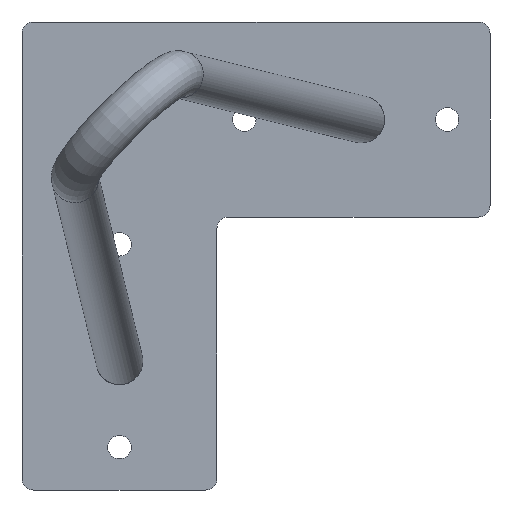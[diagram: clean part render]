
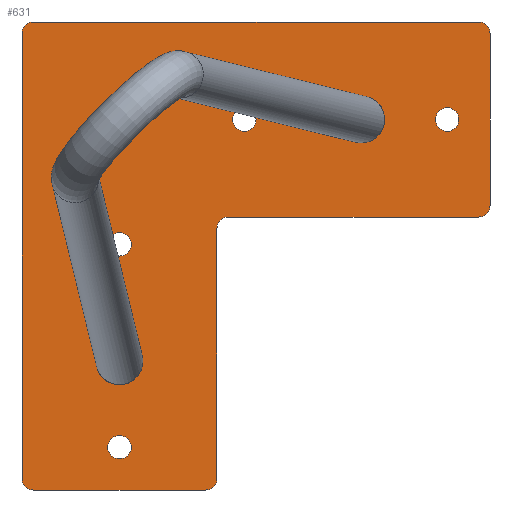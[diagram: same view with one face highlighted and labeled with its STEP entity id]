
A CAD part, front view. The second image highlights one B-rep face of the part: STEP entity #631.
In plain terms, the highlighted planar face has unit normal (0, -1, 0).
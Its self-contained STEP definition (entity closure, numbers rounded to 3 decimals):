
#32=FACE_BOUND('',#103,.T.);
#33=FACE_BOUND('',#104,.T.);
#34=FACE_BOUND('',#105,.T.);
#35=FACE_BOUND('',#106,.T.);
#36=FACE_BOUND('',#107,.T.);
#37=FACE_BOUND('',#108,.T.);
#38=FACE_BOUND('',#109,.T.);
#47=PLANE('',#703);
#66=FACE_OUTER_BOUND('',#102,.T.);
#102=EDGE_LOOP('',(#449,#450,#451,#452,#453,#454,#455,#456,#457,#458,#459,
#460));
#103=EDGE_LOOP('',(#461,#462));
#104=EDGE_LOOP('',(#463,#464));
#105=EDGE_LOOP('',(#465,#466));
#106=EDGE_LOOP('',(#467));
#107=EDGE_LOOP('',(#468));
#108=EDGE_LOOP('',(#469));
#109=EDGE_LOOP('',(#470));
#146=LINE('',#1031,#182);
#149=LINE('',#1037,#185);
#150=LINE('',#1041,#186);
#151=LINE('',#1045,#187);
#152=LINE('',#1049,#188);
#153=LINE('',#1053,#189);
#182=VECTOR('',#821,10.);
#185=VECTOR('',#826,10.);
#186=VECTOR('',#829,10.);
#187=VECTOR('',#832,10.);
#188=VECTOR('',#835,10.);
#189=VECTOR('',#838,10.);
#213=CIRCLE('',#682,6.);
#214=CIRCLE('',#683,6.);
#217=CIRCLE('',#688,6.);
#218=CIRCLE('',#689,6.);
#221=CIRCLE('',#694,6.);
#222=CIRCLE('',#695,6.);
#226=CIRCLE('',#701,3.);
#227=CIRCLE('',#704,3.);
#228=CIRCLE('',#705,3.);
#229=CIRCLE('',#706,3.);
#230=CIRCLE('',#707,3.);
#231=CIRCLE('',#708,3.);
#232=CIRCLE('',#709,3.);
#233=CIRCLE('',#710,3.);
#234=CIRCLE('',#711,3.);
#235=CIRCLE('',#712,3.);
#258=VERTEX_POINT('',#988);
#259=VERTEX_POINT('',#989);
#262=VERTEX_POINT('',#999);
#263=VERTEX_POINT('',#1000);
#266=VERTEX_POINT('',#1010);
#267=VERTEX_POINT('',#1011);
#272=VERTEX_POINT('',#1024);
#273=VERTEX_POINT('',#1026);
#274=VERTEX_POINT('',#1030);
#276=VERTEX_POINT('',#1036);
#277=VERTEX_POINT('',#1038);
#278=VERTEX_POINT('',#1040);
#279=VERTEX_POINT('',#1042);
#280=VERTEX_POINT('',#1044);
#281=VERTEX_POINT('',#1046);
#282=VERTEX_POINT('',#1048);
#283=VERTEX_POINT('',#1050);
#284=VERTEX_POINT('',#1052);
#285=VERTEX_POINT('',#1055);
#286=VERTEX_POINT('',#1057);
#287=VERTEX_POINT('',#1059);
#288=VERTEX_POINT('',#1061);
#324=EDGE_CURVE('',#258,#259,#213,.T.);
#325=EDGE_CURVE('',#259,#258,#214,.T.);
#329=EDGE_CURVE('',#262,#263,#217,.T.);
#330=EDGE_CURVE('',#263,#262,#218,.T.);
#334=EDGE_CURVE('',#266,#267,#221,.T.);
#335=EDGE_CURVE('',#267,#266,#222,.T.);
#341=EDGE_CURVE('',#272,#273,#226,.T.);
#343=EDGE_CURVE('',#273,#274,#146,.T.);
#346=EDGE_CURVE('',#276,#272,#149,.T.);
#347=EDGE_CURVE('',#277,#276,#227,.T.);
#348=EDGE_CURVE('',#278,#277,#150,.T.);
#349=EDGE_CURVE('',#279,#278,#228,.T.);
#350=EDGE_CURVE('',#280,#279,#151,.T.);
#351=EDGE_CURVE('',#281,#280,#229,.T.);
#352=EDGE_CURVE('',#282,#281,#152,.T.);
#353=EDGE_CURVE('',#283,#282,#230,.T.);
#354=EDGE_CURVE('',#284,#283,#153,.T.);
#355=EDGE_CURVE('',#274,#284,#231,.T.);
#356=EDGE_CURVE('',#285,#285,#232,.T.);
#357=EDGE_CURVE('',#286,#286,#233,.T.);
#358=EDGE_CURVE('',#287,#287,#234,.T.);
#359=EDGE_CURVE('',#288,#288,#235,.T.);
#449=ORIENTED_EDGE('',*,*,#341,.F.);
#450=ORIENTED_EDGE('',*,*,#346,.F.);
#451=ORIENTED_EDGE('',*,*,#347,.F.);
#452=ORIENTED_EDGE('',*,*,#348,.F.);
#453=ORIENTED_EDGE('',*,*,#349,.F.);
#454=ORIENTED_EDGE('',*,*,#350,.F.);
#455=ORIENTED_EDGE('',*,*,#351,.F.);
#456=ORIENTED_EDGE('',*,*,#352,.F.);
#457=ORIENTED_EDGE('',*,*,#353,.F.);
#458=ORIENTED_EDGE('',*,*,#354,.F.);
#459=ORIENTED_EDGE('',*,*,#355,.F.);
#460=ORIENTED_EDGE('',*,*,#343,.F.);
#461=ORIENTED_EDGE('',*,*,#324,.T.);
#462=ORIENTED_EDGE('',*,*,#325,.T.);
#463=ORIENTED_EDGE('',*,*,#329,.T.);
#464=ORIENTED_EDGE('',*,*,#330,.T.);
#465=ORIENTED_EDGE('',*,*,#334,.T.);
#466=ORIENTED_EDGE('',*,*,#335,.T.);
#467=ORIENTED_EDGE('',*,*,#356,.F.);
#468=ORIENTED_EDGE('',*,*,#357,.F.);
#469=ORIENTED_EDGE('',*,*,#358,.F.);
#470=ORIENTED_EDGE('',*,*,#359,.F.);
#631=ADVANCED_FACE('',(#66,#32,#33,#34,#35,#36,#37,#38),#47,.F.);
#682=AXIS2_PLACEMENT_3D('',#990,#774,#775);
#683=AXIS2_PLACEMENT_3D('',#991,#776,#777);
#688=AXIS2_PLACEMENT_3D('',#1001,#787,#788);
#689=AXIS2_PLACEMENT_3D('',#1002,#789,#790);
#694=AXIS2_PLACEMENT_3D('',#1012,#800,#801);
#695=AXIS2_PLACEMENT_3D('',#1013,#802,#803);
#701=AXIS2_PLACEMENT_3D('',#1027,#816,#817);
#703=AXIS2_PLACEMENT_3D('',#1035,#824,#825);
#704=AXIS2_PLACEMENT_3D('',#1039,#827,#828);
#705=AXIS2_PLACEMENT_3D('',#1043,#830,#831);
#706=AXIS2_PLACEMENT_3D('',#1047,#833,#834);
#707=AXIS2_PLACEMENT_3D('',#1051,#836,#837);
#708=AXIS2_PLACEMENT_3D('',#1054,#839,#840);
#709=AXIS2_PLACEMENT_3D('',#1056,#841,#842);
#710=AXIS2_PLACEMENT_3D('',#1058,#843,#844);
#711=AXIS2_PLACEMENT_3D('',#1060,#845,#846);
#712=AXIS2_PLACEMENT_3D('',#1062,#847,#848);
#774=DIRECTION('center_axis',(0.,1.,0.));
#775=DIRECTION('ref_axis',(1.,0.,0.));
#776=DIRECTION('center_axis',(0.,1.,0.));
#777=DIRECTION('ref_axis',(1.,0.,0.));
#787=DIRECTION('center_axis',(0.,1.,0.));
#788=DIRECTION('ref_axis',(1.,0.,0.));
#789=DIRECTION('center_axis',(0.,1.,0.));
#790=DIRECTION('ref_axis',(1.,0.,0.));
#800=DIRECTION('center_axis',(0.,1.,0.));
#801=DIRECTION('ref_axis',(1.,0.,0.));
#802=DIRECTION('center_axis',(0.,1.,0.));
#803=DIRECTION('ref_axis',(1.,0.,0.));
#816=DIRECTION('center_axis',(0.,1.,0.));
#817=DIRECTION('ref_axis',(-0.707,0.,-0.707));
#821=DIRECTION('',(0.,0.,1.));
#824=DIRECTION('center_axis',(0.,1.,0.));
#825=DIRECTION('ref_axis',(0.,0.,1.));
#826=DIRECTION('',(-1.,0.,0.));
#827=DIRECTION('center_axis',(0.,1.,0.));
#828=DIRECTION('ref_axis',(0.707,0.,-0.707));
#829=DIRECTION('',(0.,0.,-1.));
#830=DIRECTION('center_axis',(0.,-1.,0.));
#831=DIRECTION('ref_axis',(-0.707,0.,0.707));
#832=DIRECTION('',(-1.,0.,0.));
#833=DIRECTION('center_axis',(0.,1.,0.));
#834=DIRECTION('ref_axis',(0.707,0.,-0.707));
#835=DIRECTION('',(0.,0.,-1.));
#836=DIRECTION('center_axis',(0.,1.,0.));
#837=DIRECTION('ref_axis',(0.707,0.,0.707));
#838=DIRECTION('',(1.,0.,0.));
#839=DIRECTION('center_axis',(0.,1.,0.));
#840=DIRECTION('ref_axis',(-0.707,0.,0.707));
#841=DIRECTION('center_axis',(0.,-1.,0.));
#842=DIRECTION('ref_axis',(1.,0.,0.));
#843=DIRECTION('center_axis',(0.,-1.,0.));
#844=DIRECTION('ref_axis',(1.,0.,0.));
#845=DIRECTION('center_axis',(0.,-1.,0.));
#846=DIRECTION('ref_axis',(1.,0.,0.));
#847=DIRECTION('center_axis',(0.,-1.,0.));
#848=DIRECTION('ref_axis',(1.,0.,0.));
#988=CARTESIAN_POINT('',(31.,0.,15.06));
#989=CARTESIAN_POINT('',(19.,0.,15.06));
#990=CARTESIAN_POINT('Origin',(25.,0.,15.06));
#991=CARTESIAN_POINT('Origin',(25.,0.,15.06));
#999=CARTESIAN_POINT('',(31.,0.,-46.94));
#1000=CARTESIAN_POINT('',(19.,0.,-46.94));
#1001=CARTESIAN_POINT('Origin',(25.,0.,-46.94));
#1002=CARTESIAN_POINT('Origin',(25.,0.,-46.94));
#1010=CARTESIAN_POINT('',(93.,0.,15.06));
#1011=CARTESIAN_POINT('',(81.,0.,15.06));
#1012=CARTESIAN_POINT('Origin',(87.,0.,15.06));
#1013=CARTESIAN_POINT('Origin',(87.,0.,15.06));
#1024=CARTESIAN_POINT('',(3.,0.,-79.94));
#1026=CARTESIAN_POINT('',(0.,0.,-76.94));
#1027=CARTESIAN_POINT('Origin',(3.,0.,-76.94));
#1030=CARTESIAN_POINT('',(0.,0.,37.06));
#1031=CARTESIAN_POINT('',(0.,0.,-79.94));
#1035=CARTESIAN_POINT('Origin',(60.,0.,-19.94));
#1036=CARTESIAN_POINT('',(47.,0.,-79.94));
#1037=CARTESIAN_POINT('',(50.,0.,-79.94));
#1038=CARTESIAN_POINT('',(50.,0.,-76.94));
#1039=CARTESIAN_POINT('Origin',(47.,0.,-76.94));
#1040=CARTESIAN_POINT('',(50.,0.,-12.94));
#1041=CARTESIAN_POINT('',(50.,0.,-9.94));
#1042=CARTESIAN_POINT('',(53.,0.,-9.94));
#1043=CARTESIAN_POINT('Origin',(53.,0.,-12.94));
#1044=CARTESIAN_POINT('',(117.,0.,-9.94));
#1045=CARTESIAN_POINT('',(120.,0.,-9.94));
#1046=CARTESIAN_POINT('',(120.,0.,-6.94));
#1047=CARTESIAN_POINT('Origin',(117.,0.,-6.94));
#1048=CARTESIAN_POINT('',(120.,0.,37.06));
#1049=CARTESIAN_POINT('',(120.,0.,40.06));
#1050=CARTESIAN_POINT('',(117.,0.,40.06));
#1051=CARTESIAN_POINT('Origin',(117.,0.,37.06));
#1052=CARTESIAN_POINT('',(3.,0.,40.06));
#1053=CARTESIAN_POINT('',(0.,0.,40.06));
#1054=CARTESIAN_POINT('Origin',(3.,0.,37.06));
#1055=CARTESIAN_POINT('',(106.,0.,15.06));
#1056=CARTESIAN_POINT('Origin',(109.,0.,15.06));
#1057=CARTESIAN_POINT('',(54.,0.,15.06));
#1058=CARTESIAN_POINT('Origin',(57.,0.,15.06));
#1059=CARTESIAN_POINT('',(22.,0.,-68.94));
#1060=CARTESIAN_POINT('Origin',(25.,0.,-68.94));
#1061=CARTESIAN_POINT('',(22.,0.,-16.94));
#1062=CARTESIAN_POINT('Origin',(25.,0.,-16.94));
